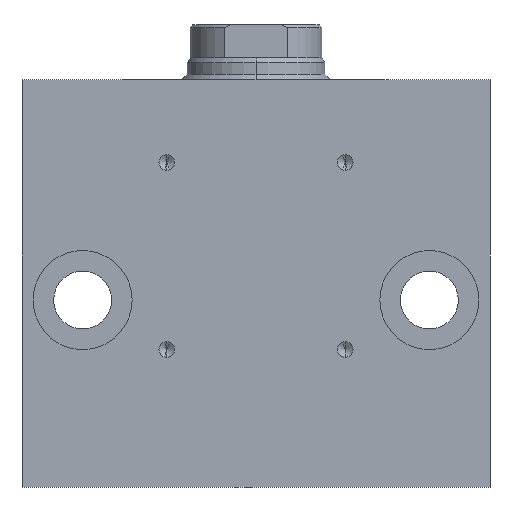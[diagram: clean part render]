
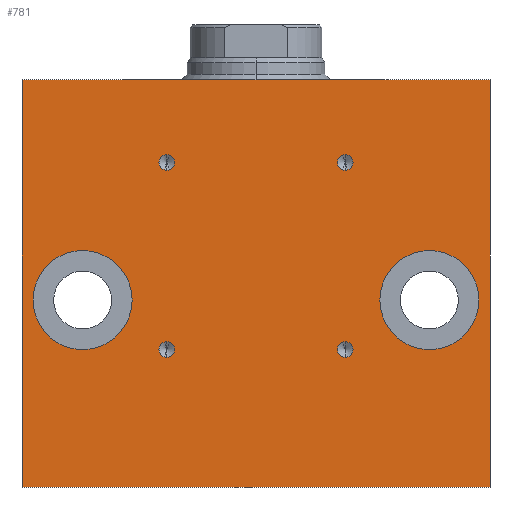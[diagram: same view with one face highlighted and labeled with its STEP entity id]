
A CAD part, left-side view. The second image highlights one B-rep face of the part: STEP entity #781.
In plain terms, the highlighted planar face has unit normal (-1, 0, 0).
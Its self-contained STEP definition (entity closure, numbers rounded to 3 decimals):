
#9 = CARTESIAN_POINT ( 'NONE',  ( -31.5, -31.5, -59. ) ) ;
#37 = PLANE ( 'NONE',  #3717 ) ;
#91 = CIRCLE ( 'NONE', #4105, 9. ) ;
#164 = EDGE_CURVE ( 'NONE', #3398, #755, #2847, .T. ) ;
#214 = DIRECTION ( 'NONE',  ( -1., 0., 0. ) ) ;
#237 = CARTESIAN_POINT ( 'NONE',  ( -31.5, -31.5, -50. ) ) ;
#285 = ORIENTED_EDGE ( 'NONE', *, *, #2772, .F. ) ;
#318 = ORIENTED_EDGE ( 'NONE', *, *, #1283, .F. ) ;
#334 = LINE ( 'NONE', #2284, #2224 ) ;
#342 = ORIENTED_EDGE ( 'NONE', *, *, #164, .F. ) ;
#357 = FACE_BOUND ( 'NONE', #1710, .T. ) ;
#361 = CIRCLE ( 'NONE', #1477, 9. ) ;
#431 = DIRECTION ( 'NONE',  ( 0., 0., 1. ) ) ;
#472 = VERTEX_POINT ( 'NONE', #3879 ) ;
#489 = CARTESIAN_POINT ( 'NONE',  ( -31.5, 16.2, -59. ) ) ;
#541 = ORIENTED_EDGE ( 'NONE', *, *, #3347, .F. ) ;
#582 = CARTESIAN_POINT ( 'NONE',  ( -31.5, 31.5, -50. ) ) ;
#586 = EDGE_CURVE ( 'NONE', #2083, #2687, #1810, .T. ) ;
#594 = VERTEX_POINT ( 'NONE', #4421 ) ;
#631 = CIRCLE ( 'NONE', #4239, 1.425 ) ;
#670 = DIRECTION ( 'NONE',  ( 0., 0., 1. ) ) ;
#681 = CARTESIAN_POINT ( 'NONE',  ( -31.5, -42.5, -10. ) ) ;
#754 = CARTESIAN_POINT ( 'NONE',  ( -31.5, -16.2, -59. ) ) ;
#755 = VERTEX_POINT ( 'NONE', #1113 ) ;
#781 = ADVANCED_FACE ( 'NONE', ( #3336, #357, #2671, #1887, #3420, #1132, #3056 ), #37, .T. ) ;
#797 = AXIS2_PLACEMENT_3D ( 'NONE', #754, #2281, #3757 ) ;
#809 = DIRECTION ( 'NONE',  ( 0., 0., -1. ) ) ;
#854 = CARTESIAN_POINT ( 'NONE',  ( -31.5, -16.2, -57.575 ) ) ;
#859 = CARTESIAN_POINT ( 'NONE',  ( -31.5, 42.5, -84. ) ) ;
#942 = CIRCLE ( 'NONE', #2229, 1.425 ) ;
#951 = EDGE_LOOP ( 'NONE', ( #1594, #1869 ) ) ;
#981 = VERTEX_POINT ( 'NONE', #4222 ) ;
#985 = VERTEX_POINT ( 'NONE', #854 ) ;
#1023 = CARTESIAN_POINT ( 'NONE',  ( -31.5, 42.5, -84. ) ) ;
#1028 = EDGE_CURVE ( 'NONE', #981, #3923, #1915, .T. ) ;
#1053 = CIRCLE ( 'NONE', #797, 1.425 ) ;
#1069 = DIRECTION ( 'NONE',  ( -1., 0., 0. ) ) ;
#1097 = VERTEX_POINT ( 'NONE', #1408 ) ;
#1113 = CARTESIAN_POINT ( 'NONE',  ( -31.5, 31.5, -59. ) ) ;
#1116 = VECTOR ( 'NONE', #2117, 1000. ) ;
#1132 = FACE_BOUND ( 'NONE', #2636, .T. ) ;
#1165 = VECTOR ( 'NONE', #1705, 1000. ) ;
#1179 = DIRECTION ( 'NONE',  ( -1., 0., 0. ) ) ;
#1283 = EDGE_CURVE ( 'NONE', #1515, #985, #1053, .T. ) ;
#1309 = DIRECTION ( 'NONE',  ( 0., 0., 1. ) ) ;
#1393 = CARTESIAN_POINT ( 'NONE',  ( -31.5, 16.2, -59. ) ) ;
#1408 = CARTESIAN_POINT ( 'NONE',  ( -31.5, 16.2, -57.575 ) ) ;
#1448 = EDGE_CURVE ( 'NONE', #3923, #981, #91, .T. ) ;
#1477 = AXIS2_PLACEMENT_3D ( 'NONE', #4533, #4177, #809 ) ;
#1515 = VERTEX_POINT ( 'NONE', #2447 ) ;
#1522 = ORIENTED_EDGE ( 'NONE', *, *, #2276, .F. ) ;
#1572 = DIRECTION ( 'NONE',  ( 0., 0., 1. ) ) ;
#1594 = ORIENTED_EDGE ( 'NONE', *, *, #4012, .F. ) ;
#1597 = AXIS2_PLACEMENT_3D ( 'NONE', #4206, #1854, #431 ) ;
#1661 = DIRECTION ( 'NONE',  ( -1., 0., 0. ) ) ;
#1682 = DIRECTION ( 'NONE',  ( -1., 0., 0. ) ) ;
#1689 = EDGE_CURVE ( 'NONE', #985, #1515, #2481, .T. ) ;
#1705 = DIRECTION ( 'NONE',  ( 0., -1., 0. ) ) ;
#1710 = EDGE_LOOP ( 'NONE', ( #285, #3185 ) ) ;
#1724 = CIRCLE ( 'NONE', #4221, 1.425 ) ;
#1734 = DIRECTION ( 'NONE',  ( 0., 0., -1. ) ) ;
#1805 = DIRECTION ( 'NONE',  ( -1., 0., 0. ) ) ;
#1810 = LINE ( 'NONE', #2947, #1116 ) ;
#1854 = DIRECTION ( 'NONE',  ( -1., 0., 0. ) ) ;
#1869 = ORIENTED_EDGE ( 'NONE', *, *, #4803, .F. ) ;
#1886 = AXIS2_PLACEMENT_3D ( 'NONE', #4040, #4089, #670 ) ;
#1887 = FACE_BOUND ( 'NONE', #951, .T. ) ;
#1915 = CIRCLE ( 'NONE', #3549, 9. ) ;
#2070 = ORIENTED_EDGE ( 'NONE', *, *, #3431, .T. ) ;
#2074 = CARTESIAN_POINT ( 'NONE',  ( -31.5, -42.5, -84. ) ) ;
#2083 = VERTEX_POINT ( 'NONE', #1023 ) ;
#2086 = DIRECTION ( 'NONE',  ( 0., 0., 1. ) ) ;
#2117 = DIRECTION ( 'NONE',  ( 0., -1., 0. ) ) ;
#2184 = VERTEX_POINT ( 'NONE', #4511 ) ;
#2224 = VECTOR ( 'NONE', #1572, 1000. ) ;
#2229 = AXIS2_PLACEMENT_3D ( 'NONE', #489, #1661, #4621 ) ;
#2276 = EDGE_CURVE ( 'NONE', #755, #3398, #361, .T. ) ;
#2281 = DIRECTION ( 'NONE',  ( -1., 0., 0. ) ) ;
#2284 = CARTESIAN_POINT ( 'NONE',  ( -31.5, -42.5, -84. ) ) ;
#2285 = AXIS2_PLACEMENT_3D ( 'NONE', #4774, #1069, #3000 ) ;
#2365 = CARTESIAN_POINT ( 'NONE',  ( -31.5, 16.2, -23.575 ) ) ;
#2379 = CARTESIAN_POINT ( 'NONE',  ( -31.5, 42.5, -10. ) ) ;
#2447 = CARTESIAN_POINT ( 'NONE',  ( -31.5, -16.2, -60.425 ) ) ;
#2471 = CARTESIAN_POINT ( 'NONE',  ( -31.5, -16.2, -26.425 ) ) ;
#2481 = CIRCLE ( 'NONE', #1597, 1.425 ) ;
#2613 = ORIENTED_EDGE ( 'NONE', *, *, #1448, .F. ) ;
#2636 = EDGE_LOOP ( 'NONE', ( #342, #1522 ) ) ;
#2647 = CARTESIAN_POINT ( 'NONE',  ( -31.5, 42.5, -84. ) ) ;
#2668 = DIRECTION ( 'NONE',  ( 0., 0., 1. ) ) ;
#2671 = FACE_BOUND ( 'NONE', #2956, .T. ) ;
#2672 = VERTEX_POINT ( 'NONE', #2471 ) ;
#2687 = VERTEX_POINT ( 'NONE', #2074 ) ;
#2740 = LINE ( 'NONE', #3855, #1165 ) ;
#2747 = EDGE_CURVE ( 'NONE', #2672, #472, #3522, .T. ) ;
#2768 = CARTESIAN_POINT ( 'NONE',  ( -31.5, 16.2, -25. ) ) ;
#2772 = EDGE_CURVE ( 'NONE', #472, #2672, #4300, .T. ) ;
#2795 = ORIENTED_EDGE ( 'NONE', *, *, #3073, .F. ) ;
#2829 = VECTOR ( 'NONE', #2086, 1000. ) ;
#2847 = CIRCLE ( 'NONE', #3149, 9. ) ;
#2915 = CIRCLE ( 'NONE', #3683, 1.425 ) ;
#2947 = CARTESIAN_POINT ( 'NONE',  ( -31.5, 42.5, -84. ) ) ;
#2956 = EDGE_LOOP ( 'NONE', ( #4381, #318 ) ) ;
#3000 = DIRECTION ( 'NONE',  ( 0., 0., 1. ) ) ;
#3015 = CARTESIAN_POINT ( 'NONE',  ( -31.5, 31.5, -41. ) ) ;
#3033 = DIRECTION ( 'NONE',  ( -1., 0., 0. ) ) ;
#3056 = FACE_OUTER_BOUND ( 'NONE', #3470, .T. ) ;
#3073 = EDGE_CURVE ( 'NONE', #594, #3999, #2915, .T. ) ;
#3099 = EDGE_CURVE ( 'NONE', #3101, #3751, #2740, .T. ) ;
#3101 = VERTEX_POINT ( 'NONE', #2379 ) ;
#3123 = EDGE_CURVE ( 'NONE', #2083, #3101, #4227, .T. ) ;
#3149 = AXIS2_PLACEMENT_3D ( 'NONE', #582, #3598, #1734 ) ;
#3185 = ORIENTED_EDGE ( 'NONE', *, *, #2747, .F. ) ;
#3227 = DIRECTION ( 'NONE',  ( 0., 0., -1. ) ) ;
#3336 = FACE_BOUND ( 'NONE', #3342, .T. ) ;
#3342 = EDGE_LOOP ( 'NONE', ( #541, #2795 ) ) ;
#3347 = EDGE_CURVE ( 'NONE', #3999, #594, #1724, .T. ) ;
#3367 = ORIENTED_EDGE ( 'NONE', *, *, #586, .T. ) ;
#3398 = VERTEX_POINT ( 'NONE', #3015 ) ;
#3420 = FACE_BOUND ( 'NONE', #3967, .T. ) ;
#3431 = EDGE_CURVE ( 'NONE', #2687, #3751, #334, .T. ) ;
#3470 = EDGE_LOOP ( 'NONE', ( #3985, #3898, #3367, #2070 ) ) ;
#3522 = CIRCLE ( 'NONE', #2285, 1.425 ) ;
#3549 = AXIS2_PLACEMENT_3D ( 'NONE', #237, #1805, #4737 ) ;
#3598 = DIRECTION ( 'NONE',  ( -1., 0., 0. ) ) ;
#3683 = AXIS2_PLACEMENT_3D ( 'NONE', #2768, #214, #4326 ) ;
#3716 = DIRECTION ( 'NONE',  ( 0., 0., 1. ) ) ;
#3717 = AXIS2_PLACEMENT_3D ( 'NONE', #2647, #3033, #3716 ) ;
#3751 = VERTEX_POINT ( 'NONE', #681 ) ;
#3757 = DIRECTION ( 'NONE',  ( 0., 0., 1. ) ) ;
#3855 = CARTESIAN_POINT ( 'NONE',  ( -31.5, 42.5, -10. ) ) ;
#3879 = CARTESIAN_POINT ( 'NONE',  ( -31.5, -16.2, -23.575 ) ) ;
#3898 = ORIENTED_EDGE ( 'NONE', *, *, #3123, .F. ) ;
#3923 = VERTEX_POINT ( 'NONE', #9 ) ;
#3967 = EDGE_LOOP ( 'NONE', ( #4484, #2613 ) ) ;
#3976 = DIRECTION ( 'NONE',  ( -1., 0., 0. ) ) ;
#3985 = ORIENTED_EDGE ( 'NONE', *, *, #3099, .F. ) ;
#3999 = VERTEX_POINT ( 'NONE', #2365 ) ;
#4001 = CARTESIAN_POINT ( 'NONE',  ( -31.5, -31.5, -50. ) ) ;
#4012 = EDGE_CURVE ( 'NONE', #1097, #2184, #942, .T. ) ;
#4040 = CARTESIAN_POINT ( 'NONE',  ( -31.5, -16.2, -25. ) ) ;
#4089 = DIRECTION ( 'NONE',  ( -1., 0., 0. ) ) ;
#4104 = CARTESIAN_POINT ( 'NONE',  ( -31.5, 16.2, -25. ) ) ;
#4105 = AXIS2_PLACEMENT_3D ( 'NONE', #4001, #3976, #3227 ) ;
#4177 = DIRECTION ( 'NONE',  ( -1., 0., 0. ) ) ;
#4206 = CARTESIAN_POINT ( 'NONE',  ( -31.5, -16.2, -59. ) ) ;
#4221 = AXIS2_PLACEMENT_3D ( 'NONE', #4104, #1179, #2668 ) ;
#4222 = CARTESIAN_POINT ( 'NONE',  ( -31.5, -31.5, -41. ) ) ;
#4227 = LINE ( 'NONE', #859, #2829 ) ;
#4239 = AXIS2_PLACEMENT_3D ( 'NONE', #1393, #1682, #1309 ) ;
#4300 = CIRCLE ( 'NONE', #1886, 1.425 ) ;
#4326 = DIRECTION ( 'NONE',  ( 0., 0., 1. ) ) ;
#4381 = ORIENTED_EDGE ( 'NONE', *, *, #1689, .F. ) ;
#4421 = CARTESIAN_POINT ( 'NONE',  ( -31.5, 16.2, -26.425 ) ) ;
#4484 = ORIENTED_EDGE ( 'NONE', *, *, #1028, .F. ) ;
#4511 = CARTESIAN_POINT ( 'NONE',  ( -31.5, 16.2, -60.425 ) ) ;
#4533 = CARTESIAN_POINT ( 'NONE',  ( -31.5, 31.5, -50. ) ) ;
#4621 = DIRECTION ( 'NONE',  ( 0., 0., 1. ) ) ;
#4737 = DIRECTION ( 'NONE',  ( 0., 0., -1. ) ) ;
#4774 = CARTESIAN_POINT ( 'NONE',  ( -31.5, -16.2, -25. ) ) ;
#4803 = EDGE_CURVE ( 'NONE', #2184, #1097, #631, .T. ) ;
